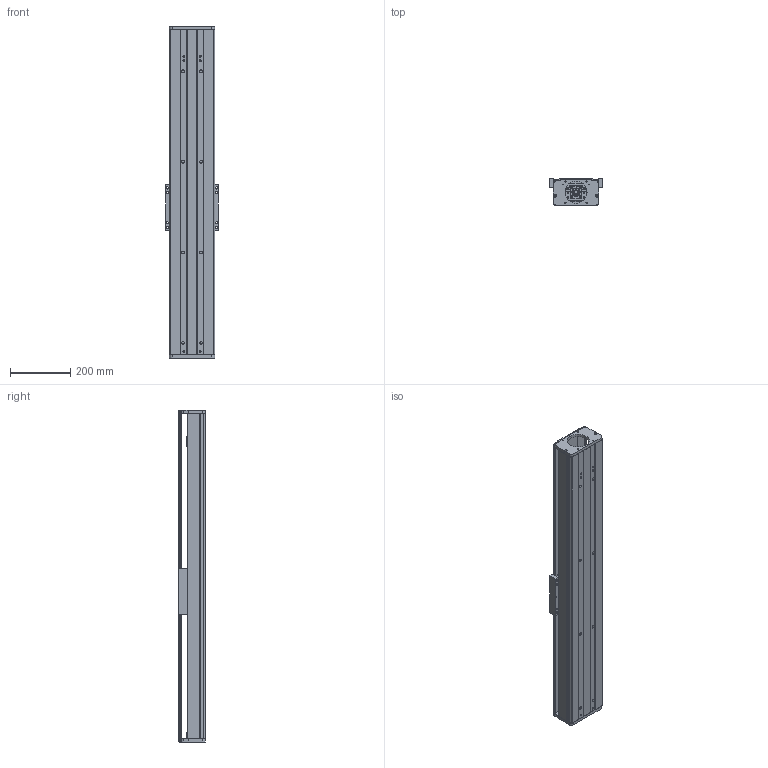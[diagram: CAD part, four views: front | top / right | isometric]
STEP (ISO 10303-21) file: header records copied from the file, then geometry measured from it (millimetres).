
FILE_DESCRIPTION (( 'STEP AP203' ), '1' );
FILE_NAME ('CF150-P800.STEP', '2016-02-23T05:28:05', ( 'Sky123.Org' ), ( 'Sky123.Org' ), 'SwSTEP 2.0', 'SolidWorks 2015', '' );
FILE_SCHEMA (( 'CONFIG_CONTROL_DESIGN' ));
Length unit declared in the file: millimetre
Products named in the file (20): SFU2005-3蹟譫; BF15; 蚾饜极2^蚾饜极1; deep groove ball bearings gb_Rolling bearings 6002 GB 276-94; 150賑輸; ѹȦ-15; 150臏倰第; 150耜啣; 长撑圈-15; HGR15絳寢; CF150裔啣; M15X1坶踡蹟譫; hGH15CA賑輸; CF150-P800; 撑圈-15; BK15+BF15; BK15; 150-20蹟譫釱; 150-86俋离萇儂假蚾啣
Assembly tree (24 placements, depth 3):
  CF150-P800
    150臏倰第
    HGR15絳寢  x2
    hGH15CA賑輸  x4
    BK15+BF15
    150-20蹟譫釱
    150-86俋离萇儂假蚾啣
    BF15
    BK15
      deep groove ball bearings gb_Rolling bearings 6002 GB 276-94  x2
      ѹȦ-15
      长撑圈-15
      M15X1坶踡蹟譫
      撑圈-15
      BK15
    蚾饜极2^蚾饜极1
      SFU2005-3蹟譫
    150賑輸
    150耜啣
    CF150裔啣
Bounding box: 175 x 89 x 1100.24 mm (x, y, z)
Volume: 5421842.8 mm3; surface area: 1692640.7 mm2
Topology: 22 solids, 22 shells, 1458 faces, 4418 edges, 2942 vertices
Faces by surface type: cylinder 715, plane 547, torus 112, sphere 64, cone 16, bspline 4
Entity records: 115224 total; most frequent: CARTESIAN_POINT 85204, ORIENTED_EDGE 6058, DIRECTION 5583, EDGE_CURVE 3029, AXIS2_PLACEMENT_3D 2110, VERTEX_POINT 2016, EDGE_LOOP 1373, LINE 1363
